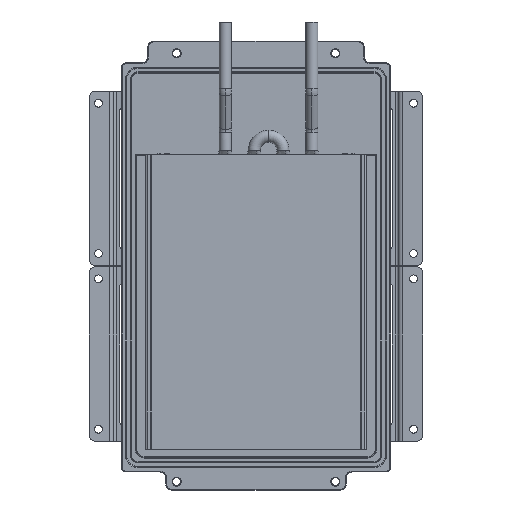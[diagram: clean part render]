
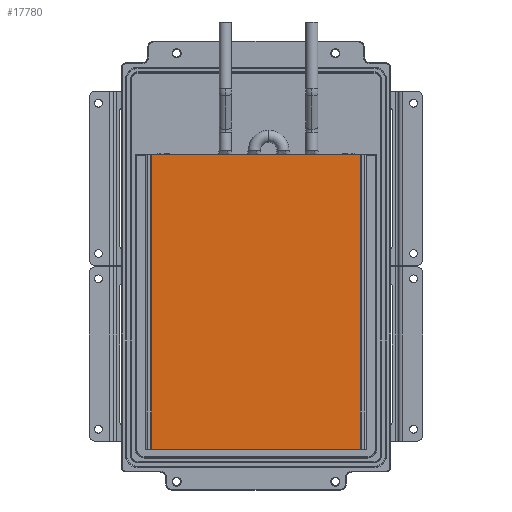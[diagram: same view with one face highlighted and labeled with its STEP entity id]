
A CAD part, front view. The second image highlights one B-rep face of the part: STEP entity #17780.
In plain terms, the highlighted planar face has unit normal (0, -1, 0).
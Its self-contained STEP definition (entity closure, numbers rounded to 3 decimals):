
#105 = EDGE_CURVE ( 'NONE', #70682, #28525, #23195, .T. ) ;
#7070 = VECTOR ( 'NONE', #95859, 1000. ) ;
#14961 = EDGE_CURVE ( 'NONE', #28525, #52705, #54676, .T. ) ;
#15752 = VECTOR ( 'NONE', #30802, 1000. ) ;
#16851 = ORIENTED_EDGE ( 'NONE', *, *, #90034, .T. ) ;
#17780 = ADVANCED_FACE ( 'NONE', ( #97067 ), #22855, .F. ) ;
#20023 = CARTESIAN_POINT ( 'NONE',  ( 89., -21., -151. ) ) ;
#22855 = PLANE ( 'NONE',  #42952 ) ;
#23195 = LINE ( 'NONE', #31874, #15752 ) ;
#28525 = VERTEX_POINT ( 'NONE', #60580 ) ;
#30802 = DIRECTION ( 'NONE',  ( -1., 0., 0. ) ) ;
#31874 = CARTESIAN_POINT ( 'NONE',  ( 93.5, -21., 94. ) ) ;
#32057 = CARTESIAN_POINT ( 'NONE',  ( 93.5, -21., -151. ) ) ;
#32220 = ORIENTED_EDGE ( 'NONE', *, *, #105, .T. ) ;
#36384 = CARTESIAN_POINT ( 'NONE',  ( 89., -21., -151. ) ) ;
#37348 = DIRECTION ( 'NONE',  ( 0., 0., -1. ) ) ;
#38427 = LINE ( 'NONE', #70390, #7070 ) ;
#38634 = ORIENTED_EDGE ( 'NONE', *, *, #14961, .T. ) ;
#42952 = AXIS2_PLACEMENT_3D ( 'NONE', #32057, #98116, #73724 ) ;
#46626 = EDGE_CURVE ( 'NONE', #82924, #52705, #95314, .T. ) ;
#49874 = EDGE_LOOP ( 'NONE', ( #38634, #57538, #16851, #32220 ) ) ;
#52705 = VERTEX_POINT ( 'NONE', #54095 ) ;
#54095 = CARTESIAN_POINT ( 'NONE',  ( -85., -21., -151. ) ) ;
#54169 = DIRECTION ( 'NONE',  ( -1., 0., 0. ) ) ;
#54676 = LINE ( 'NONE', #71482, #85669 ) ;
#57538 = ORIENTED_EDGE ( 'NONE', *, *, #46626, .F. ) ;
#60580 = CARTESIAN_POINT ( 'NONE',  ( -85., -21., 94. ) ) ;
#68865 = CARTESIAN_POINT ( 'NONE',  ( 89., -21., 94. ) ) ;
#70390 = CARTESIAN_POINT ( 'NONE',  ( 89., -21., -151. ) ) ;
#70682 = VERTEX_POINT ( 'NONE', #68865 ) ;
#71482 = CARTESIAN_POINT ( 'NONE',  ( -85., -21., -151. ) ) ;
#73724 = DIRECTION ( 'NONE',  ( 1., 0., 0. ) ) ;
#82924 = VERTEX_POINT ( 'NONE', #36384 ) ;
#85669 = VECTOR ( 'NONE', #37348, 1000. ) ;
#85673 = VECTOR ( 'NONE', #54169, 1000. ) ;
#90034 = EDGE_CURVE ( 'NONE', #82924, #70682, #38427, .T. ) ;
#95314 = LINE ( 'NONE', #20023, #85673 ) ;
#95859 = DIRECTION ( 'NONE',  ( 0., 0., 1. ) ) ;
#97067 = FACE_OUTER_BOUND ( 'NONE', #49874, .T. ) ;
#98116 = DIRECTION ( 'NONE',  ( 0., 1., 0. ) ) ;
